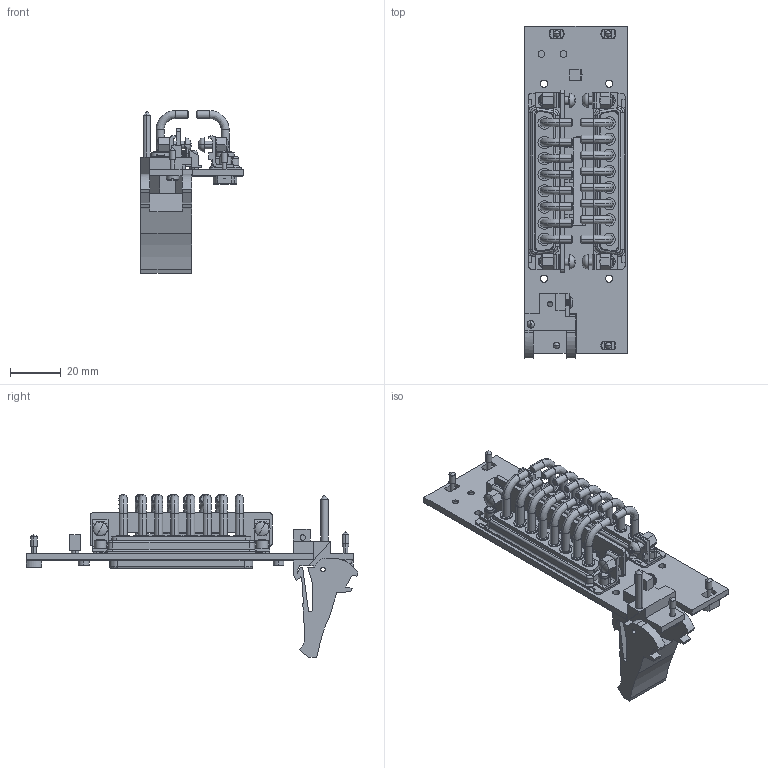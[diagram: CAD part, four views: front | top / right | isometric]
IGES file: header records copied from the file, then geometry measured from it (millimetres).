
Start section:  PTC IGES file: cu_pxie-2514.igs
Global section: file name: cu_pxie-2514.igs; native system: Pro/ENGINEER by Parametric Technology Corporation; preprocessor: 2006080; author: jjorden; organization: Unknown; date: 091102.160804; units: inch
Bounding box: 40.34 x 130.5 x 64.06 mm (x, y, z)
Surface area: 34092.7 mm2 (no closed solid volume)
Topology: 0 solids, 0 shells, 2000 faces, 9604 edges, 9488 vertices
Faces by surface type: bspline 1097, revolution 903
